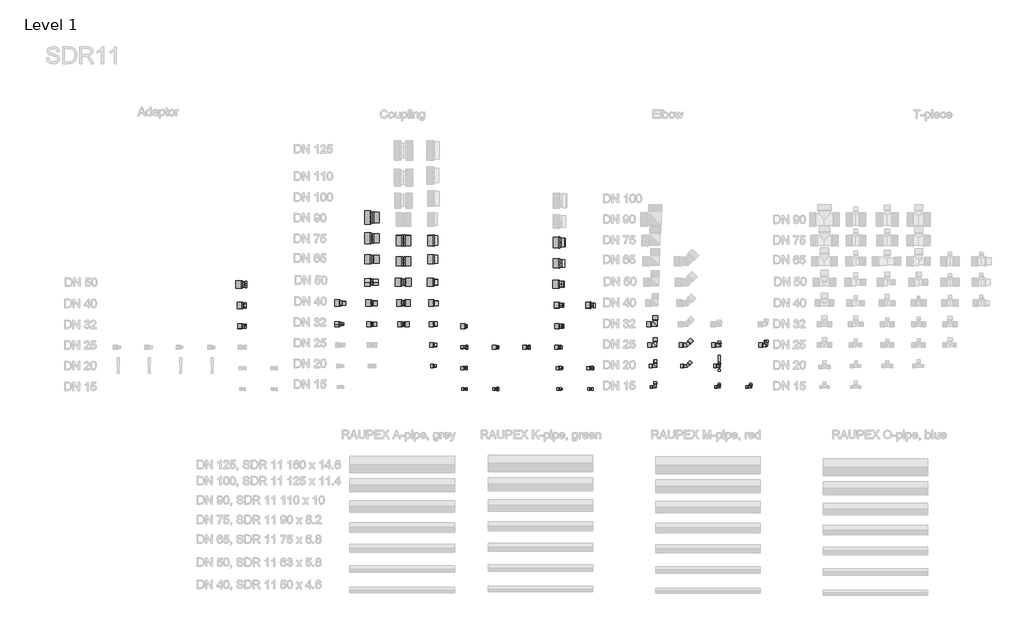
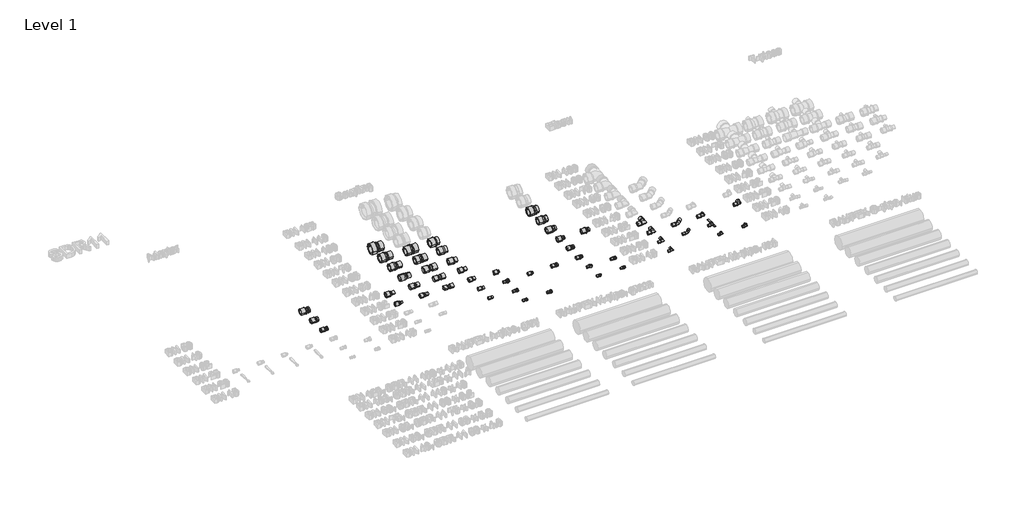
# One storey, part 3 of 16: 123 pipe fittings.
"""IFC4 building model written with IfcOpenShell, lengths in millimetres."""

from ifc_helpers import new_model, si_unit, origin, place, context, project, spatial, transform, mapped, element, save
from components import pipe_fitting_2c702f34, pipe_fitting_dab1daa7, pipe_fitting_0d2e2301, pipe_fitting_c9fbcce2, pipe_fitting_3aadb600, pipe_fitting_378b12e4, pipe_fitting_98be0705, pipe_fitting_7b38b3fe, pipe_fitting_768e8c92, pipe_fitting_5d65e2c7, pipe_fitting_7715747c, pipe_fitting_184ea8aa, pipe_fitting_c80349c2, pipe_fitting_1cbe8aa9, pipe_fitting_2a62b2ce, adapter_with_union_nut_sdr11_a_union_nut_lx_b692c261, adapter_with_union_nut_sdr11_a_union_nut_lx_88bdcbd4, adapter_with_union_nut_sdr11_a_union_nut_lx_b8b73a84, coupling_union_f10d7a8f, coupling_union_26f199f2, coupling_union_cbcc5ad7, coupling_union_0abae06c, coupling_union_130b633a, elbow_sdr11_lx_elbow_sdr_11_lx_623d303d, elbow_sdr11_lx_elbow_sdr_11_lx_9afd64a0, elbow_sdr11_lx_elbow_sdr_11_lx_04f5514c, elbow_sdr11_lx_elbow_sdr_11_lx_b8bc8752, elbow_sdr11_lx_elbow_sdr_11_lx_81e20379, elbow_sdr11_lx_elbow_sdr_11_lx_e0cd5045, elbow_adapter_sdr11_lx_elbow_adapter_sdr_11_lx_4b792a66, elbow_adapter_sdr11_lx_elbow_adapter_sdr_11_lx_cc2d060e, elbow_adapter_sdr11_lx_elbow_adapter_sdr_11_lx_d02e2b3c, elbow_adapter_sdr11_lx_elbow_adapter_sdr_11_lx_30344850, elbow_adapter_with_union_nut_sdr_11_lx_9001e0a9, female_adapter_internal_thread_sdr11_female_adapter_lx_e3558355, female_adapter_internal_thread_sdr11_female_adapter_lx_b72150e8, female_adapter_internal_thread_sdr11_female_adapter_lx_0baaf817, female_adapter_internal_thread_sdr11_female_adapter_lx_4a9fde89, female_adapter_internal_thread_sdr11_female_adapter_lx_76b21a85, female_adapter_internal_thread_sdr11_female_adapter_lx_59931cbf, female_adapter_internal_thread_sdr11_female_adapter_lx_052b0fb5, male_adapter_external_thread_sdr11_male_adapter_lx_4a5881c0, male_adapter_external_thread_sdr11_male_adapter_lx_f4faac24, male_adapter_external_thread_sdr11_male_adapter_lx_0d78ced2, male_adapter_external_thread_sdr11_male_adapter_lx_96740124, male_adapter_external_thread_sdr11_male_adapter_lx_289b96de, male_adapter_external_thread_sdr11_male_adapter_lx_11594ce0, male_adapter_external_thread_sdr11_male_adapter_lx_ea96c67b, male_adapter_external_thread_sdr11_male_adapter_lx_b940736f, male_adapter_external_thread_sdr11_male_adapter_lx_cf543375, male_adapter_external_thread_sdr11_male_adapter_rx_4136f3fd, male_adapter_external_thread_sdr11_male_adapter_rx_7419d65c, sleeve_lx_11_2e170aa1, sleeve_lx_11_3fcb8560, sleeve_lx_11_f19e3dbf, sleeve_lx_11_b9b419b6, sleeve_lx_11_e5eab1a7, sleeve_lx_11_ddfe2885, sleeve_rx_11_7b1edd19, sleeve_rx_11_d7843ee1, sleeve_rx_11_d7b6a074

model = new_model("IFC4")

# Units and contexts
model_context = context("Model", 3, world=origin())
ifc_project = project(units=[si_unit("LENGTHUNIT", "METRE", prefix="MILLI")], contexts=[model_context])

# Site, building, storey
site = spatial("IfcSite", under=ifc_project)
building = spatial("IfcBuilding", under=site)
storey = spatial("IfcBuildingStorey", under=building, Name="Level 1", Elevation=0.0)

# Pipe fittings
placement = place(None, origin())
pipe_fitting_shape = pipe_fitting_2c702f34(model_context)
element("IfcPipeFitting", 1, ObjectType="Coupling transistion : C RE SDR11 RX", at=placement, inside=storey, context=model_context, shape_type="MappedRepresentation", body=[
    mapped(pipe_fitting_shape, transform((11803.1112925, 1660.5489138, 0.0), x_axis=(1.0, 0.0, 0.0), y_axis=(0.0, 1.0, 0.0), z_axis=(0.0, 0.0, 1.0))),
])
pipe_fitting_2_shape = pipe_fitting_dab1daa7(model_context)
element("IfcPipeFitting", 2, ObjectType="Coupling transistion : C RE SDR11 LX", at=placement, inside=storey, context=model_context, shape_type="MappedRepresentation", body=[
    mapped(pipe_fitting_2_shape, transform((11503.1112925, 1040.5489138, 0.0), x_axis=(1.0, 0.0, 0.0), y_axis=(0.0, 0.0, -1.0), z_axis=(0.0, 1.0, 0.0))),
])
pipe_fitting_3_shape = pipe_fitting_0d2e2301(model_context)
element("IfcPipeFitting", 3, ObjectType="Coupling transistion : C RE SDR11 LX", at=placement, inside=storey, context=model_context, shape_type="MappedRepresentation", body=[
    mapped(pipe_fitting_3_shape, transform((11803.1112925, 1040.5489138, 0.0), x_axis=(1.0, 0.0, 0.0), y_axis=(0.0, 1.0, 0.0), z_axis=(0.0, 0.0, 1.0))),
])
pipe_fitting_4_shape = pipe_fitting_c9fbcce2(model_context)
element("IfcPipeFitting", 4, ObjectType="Coupling transistion : C RE SDR11 LX", at=placement, inside=storey, context=model_context, shape_type="MappedRepresentation", body=[
    mapped(pipe_fitting_4_shape, transform((11503.1112925, 1240.5489138, 0.0), x_axis=(1.0, 0.0, 0.0), y_axis=(0.0, 1.0, 0.0), z_axis=(0.0, 0.0, 1.0))),
])
pipe_fitting_5_shape = pipe_fitting_3aadb600(model_context)
element("IfcPipeFitting", 5, ObjectType="Coupling transistion : C RE SDR11 LX", at=placement, inside=storey, context=model_context, shape_type="MappedRepresentation", body=[
    mapped(pipe_fitting_5_shape, transform((11803.1112925, 1240.5489138, 0.0), x_axis=(1.0, 0.0, 0.0), y_axis=(0.0, 1.0, 0.0), z_axis=(0.0, 0.0, 1.0))),
])
pipe_fitting_6_shape = pipe_fitting_378b12e4(model_context)
element("IfcPipeFitting", 6, ObjectType="Coupling transistion : C RE SDR11 LX", at=placement, inside=storey, context=model_context, shape_type="MappedRepresentation", body=[
    mapped(pipe_fitting_6_shape, transform((11803.1112925, 1440.5489138, 0.0), x_axis=(1.0, 0.0, 0.0), y_axis=(0.0, 0.0, -1.0), z_axis=(0.0, 1.0, 0.0))),
])
pipe_fitting_7_shape = pipe_fitting_98be0705(model_context)
element("IfcPipeFitting", 7, ObjectType="Coupling transistion : C RE SDR11 RX", at=placement, inside=storey, context=model_context, shape_type="MappedRepresentation", body=[
    mapped(pipe_fitting_7_shape, transform((11803.1112925, 1860.5489138, 0.0), x_axis=(1.0, 0.0, 0.0), y_axis=(0.0, 1.0, 0.0), z_axis=(0.0, 0.0, 1.0))),
])
pipe_fitting_8_shape = pipe_fitting_7b38b3fe(model_context)
element("IfcPipeFitting", 8, ObjectType="Coupling transistion : C RE SDR11 RX", at=placement, inside=storey, context=model_context, shape_type="MappedRepresentation", body=[
    mapped(pipe_fitting_8_shape, transform((11803.1112925, 2060.5489138, 0.0), x_axis=(1.0, 0.0, 0.0), y_axis=(0.0, 1.0, 0.0), z_axis=(0.0, 0.0, 1.0))),
])
pipe_fitting_9_shape = pipe_fitting_768e8c92(model_context)
element("IfcPipeFitting", 9, ObjectType="Adapter with welding end : A welding LX", at=placement, inside=storey, context=model_context, shape_type="MappedRepresentation", body=[
    mapped(pipe_fitting_9_shape, transform((12403.1112925, 1440.5489138, 0.0), x_axis=(1.0, 0.0, 0.0), y_axis=(0.0, 1.0, 0.0), z_axis=(0.0, 0.0, 1.0))),
])
pipe_fitting_10_shape = pipe_fitting_5d65e2c7(model_context)
element("IfcPipeFitting", 10, ObjectType="Adapter with welding end : A welding LX", at=placement, inside=storey, context=model_context, shape_type="MappedRepresentation", body=[
    mapped(pipe_fitting_10_shape, transform((12403.1112925, 640.5489138, 0.0), x_axis=(1.0, 0.0, 0.0), y_axis=(0.0, 1.0, 0.0), z_axis=(0.0, 0.0, 1.0))),
])
pipe_fitting_11_shape = pipe_fitting_7715747c(model_context)
element("IfcPipeFitting", 11, ObjectType="Adapter with welding end : A welding LX", at=placement, inside=storey, context=model_context, shape_type="MappedRepresentation", body=[
    mapped(pipe_fitting_11_shape, transform((12403.1112925, 1240.5489138, 0.0), x_axis=(1.0, 0.0, 0.0), y_axis=(0.0, 1.0, 0.0), z_axis=(0.0, 0.0, 1.0))),
])
pipe_fitting_12_shape = pipe_fitting_184ea8aa(model_context)
element("IfcPipeFitting", 12, ObjectType="Adapter with welding end : A welding LX", at=placement, inside=storey, context=model_context, shape_type="MappedRepresentation", body=[
    mapped(pipe_fitting_12_shape, transform((12403.1112925, 1040.5489138, 0.0), x_axis=(1.0, 0.0, 0.0), y_axis=(0.0, 1.0, 0.0), z_axis=(0.0, 0.0, 1.0))),
])
pipe_fitting_13_shape = pipe_fitting_c80349c2(model_context)
element("IfcPipeFitting", 13, ObjectType="Adapter with welding end : A welding LX", at=placement, inside=storey, context=model_context, shape_type="MappedRepresentation", body=[
    mapped(pipe_fitting_13_shape, transform((12403.1112925, 840.5489138, 0.0), x_axis=(1.0, 0.0, 0.0), y_axis=(0.0, 1.0, 0.0), z_axis=(0.0, 0.0, 1.0))),
])
pipe_fitting_14_shape = pipe_fitting_1cbe8aa9(model_context)
element("IfcPipeFitting", 14, ObjectType="Adapter with welding end : A welding RX", at=placement, inside=storey, context=model_context, shape_type="MappedRepresentation", body=[
    mapped(pipe_fitting_14_shape, transform((12403.1112925, 1660.5489138, 0.0), x_axis=(1.0, 0.0, 0.0), y_axis=(0.0, 1.0, 0.0), z_axis=(0.0, 0.0, 1.0))),
])
pipe_fitting_15_shape = pipe_fitting_2a62b2ce(model_context)
element("IfcPipeFitting", 15, ObjectType="Adapter with welding end : A welding RX", at=placement, inside=storey, context=model_context, shape_type="MappedRepresentation", body=[
    mapped(pipe_fitting_15_shape, transform((12403.1112925, 1840.5489138, 0.0), x_axis=(1.0, 0.0, 0.0), y_axis=(0.0, 1.0, 0.0), z_axis=(0.0, 0.0, 1.0))),
])
adapter_with_union_nut_sdr11_a_union_nut_lx_shape = adapter_with_union_nut_sdr11_a_union_nut_lx_b692c261(model_context)
element("IfcPipeFitting", 16, ObjectType="Adapter with union nut SDR11 : A union nut LX", at=placement, inside=storey, context=model_context, shape_type="MappedRepresentation", body=[
    mapped(adapter_with_union_nut_sdr11_a_union_nut_lx_shape, transform((10576.3241815, 1019.0534305, 0.0), x_axis=(1.0, 0.0, 0.0), y_axis=(0.0, 1.0, 0.0), z_axis=(0.0, 0.0, 1.0))),
])
adapter_with_union_nut_sdr11_a_union_nut_lx_2_shape = adapter_with_union_nut_sdr11_a_union_nut_lx_88bdcbd4(model_context)
element("IfcPipeFitting", 17, ObjectType="Adapter with union nut SDR11 : A union nut LX", at=placement, inside=storey, context=model_context, shape_type="MappedRepresentation", body=[
    mapped(adapter_with_union_nut_sdr11_a_union_nut_lx_2_shape, transform((10576.3241815, 1219.0534305, 0.0), x_axis=(1.0, 0.0, 0.0), y_axis=(0.0, 1.0, 0.0), z_axis=(0.0, 0.0, 1.0))),
])
adapter_with_union_nut_sdr11_a_union_nut_lx_3_shape = adapter_with_union_nut_sdr11_a_union_nut_lx_b8b73a84(model_context)
element("IfcPipeFitting", 18, ObjectType="Adapter with union nut SDR11 : A union nut LX", at=placement, inside=storey, context=model_context, shape_type="MappedRepresentation", body=[
    mapped(adapter_with_union_nut_sdr11_a_union_nut_lx_3_shape, transform((10576.3241815, 1419.0534305, 0.0), x_axis=(1.0, 0.0, 0.0), y_axis=(0.0, 1.0, 0.0), z_axis=(0.0, 0.0, 1.0))),
])
coupling_union_shape = coupling_union_f10d7a8f(model_context)
element("IfcPipeFitting", 19, ObjectType="Coupling union : C EQ SDR11 LX", at=placement, inside=storey, context=model_context, shape_type="MappedRepresentation", body=[
    mapped(coupling_union_shape, transform((12103.1112925, 1440.5489138, 0.0), x_axis=(1.0, 0.0, 0.0), y_axis=(0.0, 1.0, 0.0), z_axis=(0.0, 0.0, 1.0))),
])
coupling_union_2_shape = coupling_union_26f199f2(model_context)
element("IfcPipeFitting", 20, ObjectType="Coupling union : C EQ SDR11 LX", at=placement, inside=storey, context=model_context, shape_type="MappedRepresentation", body=[
    mapped(coupling_union_2_shape, transform((12103.1112925, 1040.5489138, 0.0), x_axis=(1.0, 0.0, 0.0), y_axis=(0.0, 1.0, 0.0), z_axis=(0.0, 0.0, 1.0))),
])
coupling_union_3_shape = coupling_union_cbcc5ad7(model_context)
element("IfcPipeFitting", 21, ObjectType="Coupling union : C EQ SDR11 LX", at=placement, inside=storey, context=model_context, shape_type="MappedRepresentation", body=[
    mapped(coupling_union_3_shape, transform((12103.1112925, 1240.5489138, 0.0), x_axis=(1.0, 0.0, 0.0), y_axis=(0.0, 1.0, 0.0), z_axis=(0.0, 0.0, 1.0))),
])
coupling_union_4_shape = coupling_union_0abae06c(model_context)
element("IfcPipeFitting", 22, ObjectType="Coupling union : C EQ SDR11 RX", at=placement, inside=storey, context=model_context, shape_type="MappedRepresentation", body=[
    mapped(coupling_union_4_shape, transform((12103.1112925, 1640.5489138, 0.0), x_axis=(1.0, 0.0, 0.0), y_axis=(0.0, 1.0, 0.0), z_axis=(0.0, 0.0, 1.0))),
])
coupling_union_5_shape = coupling_union_130b633a(model_context)
element("IfcPipeFitting", 23, ObjectType="Coupling union : C EQ SDR11 RX", at=placement, inside=storey, context=model_context, shape_type="MappedRepresentation", body=[
    mapped(coupling_union_5_shape, transform((12103.1112925, 1840.5489138, 0.0), x_axis=(1.0, 0.0, 0.0), y_axis=(0.0, 1.0, 0.0), z_axis=(0.0, 0.0, 1.0))),
])
elbow_sdr11_lx_elbow_sdr_11_lx_shape = elbow_sdr11_lx_elbow_sdr_11_lx_623d303d(model_context)
element("IfcPipeFitting", 24, ObjectType="Elbow SDR11 LX : Elbow SDR 11 LX", at=placement, inside=storey, context=model_context, shape_type="MappedRepresentation", body=[
    mapped(elbow_sdr11_lx_elbow_sdr_11_lx_shape, transform((14509.6158086, 640.5489138, 0.0), x_axis=(1.0, 0.0, 0.0), y_axis=(0.0, 1.0, 0.0), z_axis=(0.0, 0.0, 1.0))),
])
elbow_sdr11_lx_elbow_sdr_11_lx_2_shape = elbow_sdr11_lx_elbow_sdr_11_lx_9afd64a0(model_context)
element("IfcPipeFitting", 25, ObjectType="Elbow SDR11 LX : Elbow SDR 11 LX", at=placement, inside=storey, context=model_context, shape_type="MappedRepresentation", body=[
    mapped(elbow_sdr11_lx_elbow_sdr_11_lx_2_shape, transform((14509.6158086, 440.5489138, 0.0), x_axis=(1.0, 0.0, 0.0), y_axis=(0.0, 1.0, 0.0), z_axis=(0.0, 0.0, 1.0))),
])
elbow_sdr11_lx_elbow_sdr_11_lx_3_shape = elbow_sdr11_lx_elbow_sdr_11_lx_04f5514c(model_context)
element("IfcPipeFitting", 26, ObjectType="Elbow SDR11 LX : Elbow SDR 11 LX", at=placement, inside=storey, context=model_context, shape_type="MappedRepresentation", body=[
    mapped(elbow_sdr11_lx_elbow_sdr_11_lx_3_shape, transform((14509.6158086, 840.5489138, 0.0), x_axis=(1.0, 0.0, 0.0), y_axis=(0.0, 1.0, 0.0), z_axis=(0.0, 0.0, 1.0))),
])
elbow_sdr11_lx_elbow_sdr_11_lx_4_shape = elbow_sdr11_lx_elbow_sdr_11_lx_b8bc8752(model_context)
element("IfcPipeFitting", 27, ObjectType="Elbow SDR11 LX : Elbow SDR 11 LX", at=placement, inside=storey, context=model_context, shape_type="MappedRepresentation", body=[
    mapped(elbow_sdr11_lx_elbow_sdr_11_lx_4_shape, transform((14509.6158086, 1040.5489138, 0.0), x_axis=(1.0, 0.0, 0.0), y_axis=(0.0, 1.0, 0.0), z_axis=(0.0, 0.0, 1.0))),
])
elbow_sdr11_lx_elbow_sdr_11_lx_5_shape = elbow_sdr11_lx_elbow_sdr_11_lx_81e20379(model_context)
element("IfcPipeFitting", 28, ObjectType="Elbow SDR11 LX : Elbow SDR 11 LX", at=placement, inside=storey, context=model_context, shape_type="MappedRepresentation", body=[
    mapped(elbow_sdr11_lx_elbow_sdr_11_lx_5_shape, transform((14809.6158086, 640.5489138, 0.0), x_axis=(1.0, 0.0, 0.0), y_axis=(0.0, 1.0, 0.0), z_axis=(0.0, 0.0, 1.0))),
])
elbow_sdr11_lx_elbow_sdr_11_lx_6_shape = elbow_sdr11_lx_elbow_sdr_11_lx_e0cd5045(model_context)
element("IfcPipeFitting", 29, ObjectType="Elbow SDR11 LX : Elbow SDR 11 LX", at=placement, inside=storey, context=model_context, shape_type="MappedRepresentation", body=[
    mapped(elbow_sdr11_lx_elbow_sdr_11_lx_6_shape, transform((14809.6158086, 840.5489138, 0.0), x_axis=(1.0, 0.0, 0.0), y_axis=(0.0, 1.0, 0.0), z_axis=(0.0, 0.0, 1.0))),
])
elbow_adapter_sdr11_lx_elbow_adapter_sdr_11_lx_shape = elbow_adapter_sdr11_lx_elbow_adapter_sdr_11_lx_4b792a66(model_context)
element("IfcPipeFitting", 30, ObjectType="Elbow adapter SDR11 LX : Elbow adapter SDR 11 LX", at=placement, inside=storey, context=model_context, shape_type="MappedRepresentation", body=[
    mapped(elbow_adapter_sdr11_lx_elbow_adapter_sdr_11_lx_shape, transform((15121.1751687, 440.5489138, 0.0), x_axis=(1.0, 0.0, 0.0), y_axis=(0.0, 1.0, 0.0), z_axis=(0.0, 0.0, 1.0))),
])
elbow_adapter_sdr11_lx_elbow_adapter_sdr_11_lx_2_shape = elbow_adapter_sdr11_lx_elbow_adapter_sdr_11_lx_cc2d060e(model_context)
element("IfcPipeFitting", 31, ObjectType="Elbow adapter SDR11 LX : Elbow adapter SDR 11 LX", at=placement, inside=storey, context=model_context, shape_type="MappedRepresentation", body=[
    mapped(elbow_adapter_sdr11_lx_elbow_adapter_sdr_11_lx_2_shape, transform((15421.1751687, 440.5489138, 0.0), x_axis=(1.0, 0.0, 0.0), y_axis=(0.0, 1.0, 0.0), z_axis=(0.0, 0.0, 1.0))),
])
elbow_adapter_sdr11_lx_elbow_adapter_sdr_11_lx_3_shape = elbow_adapter_sdr11_lx_elbow_adapter_sdr_11_lx_d02e2b3c(model_context)
element("IfcPipeFitting", 32, ObjectType="Elbow adapter SDR11 LX : Elbow adapter SDR 11 LX", at=placement, inside=storey, context=model_context, shape_type="MappedRepresentation", body=[
    mapped(elbow_adapter_sdr11_lx_elbow_adapter_sdr_11_lx_3_shape, transform((15121.1751687, 640.5489138, 0.0), x_axis=(1.0, 0.0, 0.0), y_axis=(0.0, 1.0, 0.0), z_axis=(0.0, 0.0, 1.0))),
])
elbow_adapter_sdr11_lx_elbow_adapter_sdr_11_lx_4_shape = elbow_adapter_sdr11_lx_elbow_adapter_sdr_11_lx_30344850(model_context)
element("IfcPipeFitting", 33, ObjectType="Elbow adapter SDR11 LX : Elbow adapter SDR 11 LX", at=placement, inside=storey, context=model_context, shape_type="MappedRepresentation", body=[
    mapped(elbow_adapter_sdr11_lx_elbow_adapter_sdr_11_lx_4_shape, transform((15121.1751687, 840.5489138, 0.0), x_axis=(1.0, 0.0, 0.0), y_axis=(0.0, 1.0, 0.0), z_axis=(0.0, 0.0, 1.0))),
])
elbow_adapter_with_union_nut_sdr_11_lx_shape = elbow_adapter_with_union_nut_sdr_11_lx_9001e0a9(model_context)
element("IfcPipeFitting", 34, ObjectType="Elbow adapter with union nut SDR11 LX  : Elbow adapter with union nut SDR 11 LX", at=placement, inside=storey, context=model_context, shape_type="MappedRepresentation", body=[
    mapped(elbow_adapter_with_union_nut_sdr_11_lx_shape, transform((15569.0164475, 840.5489138, 0.0), x_axis=(1.0, 0.0, 0.0), y_axis=(0.0, 1.0, 0.0), z_axis=(0.0, 0.0, 1.0))),
])
female_adapter_internal_thread_sdr11_female_adapter_lx_shape = female_adapter_internal_thread_sdr11_female_adapter_lx_e3558355(model_context)
element("IfcPipeFitting", 35, ObjectType="Female adapter internal thread SDR11 : Female adapter LX", at=placement, inside=storey, context=model_context, shape_type="MappedRepresentation", body=[
    mapped(female_adapter_internal_thread_sdr11_female_adapter_lx_shape, transform((12696.8014725, 420.5489138, 0.0), x_axis=(1.0, 0.0, 0.0), y_axis=(0.0, 1.0, 0.0), z_axis=(0.0, 0.0, 1.0))),
])
female_adapter_internal_thread_sdr11_female_adapter_lx_2_shape = female_adapter_internal_thread_sdr11_female_adapter_lx_b72150e8(model_context)
element("IfcPipeFitting", 36, ObjectType="Female adapter internal thread SDR11 : Female adapter LX", at=placement, inside=storey, context=model_context, shape_type="MappedRepresentation", body=[
    mapped(female_adapter_internal_thread_sdr11_female_adapter_lx_2_shape, transform((12996.8014725, 420.5489138, 0.0), x_axis=(1.0, 0.0, 0.0), y_axis=(0.0, 1.0, 0.0), z_axis=(0.0, 0.0, 1.0))),
])
female_adapter_internal_thread_sdr11_female_adapter_lx_3_shape = female_adapter_internal_thread_sdr11_female_adapter_lx_0baaf817(model_context)
element("IfcPipeFitting", 37, ObjectType="Female adapter internal thread SDR11 : Female adapter LX", at=placement, inside=storey, context=model_context, shape_type="MappedRepresentation", body=[
    mapped(female_adapter_internal_thread_sdr11_female_adapter_lx_3_shape, transform((12696.8014725, 620.5489138, 0.0), x_axis=(1.0, 0.0, 0.0), y_axis=(0.0, 1.0, 0.0), z_axis=(0.0, 0.0, 1.0))),
])
female_adapter_internal_thread_sdr11_female_adapter_lx_4_shape = female_adapter_internal_thread_sdr11_female_adapter_lx_4a9fde89(model_context)
element("IfcPipeFitting", 38, ObjectType="Female adapter internal thread SDR11 : Female adapter LX", at=placement, inside=storey, context=model_context, shape_type="MappedRepresentation", body=[
    mapped(female_adapter_internal_thread_sdr11_female_adapter_lx_4_shape, transform((12696.8014725, 820.5489138, 0.0), x_axis=(1.0, 0.0, 0.0), y_axis=(0.0, 1.0, 0.0), z_axis=(0.0, 0.0, 1.0))),
])
female_adapter_internal_thread_sdr11_female_adapter_lx_5_shape = female_adapter_internal_thread_sdr11_female_adapter_lx_76b21a85(model_context)
element("IfcPipeFitting", 39, ObjectType="Female adapter internal thread SDR11 : Female adapter LX", at=placement, inside=storey, context=model_context, shape_type="MappedRepresentation", body=[
    mapped(female_adapter_internal_thread_sdr11_female_adapter_lx_5_shape, transform((12996.8014725, 820.5489138, 0.0), x_axis=(1.0, 0.0, 0.0), y_axis=(0.0, 1.0, 0.0), z_axis=(0.0, 0.0, 1.0))),
])
female_adapter_internal_thread_sdr11_female_adapter_lx_6_shape = female_adapter_internal_thread_sdr11_female_adapter_lx_59931cbf(model_context)
element("IfcPipeFitting", 40, ObjectType="Female adapter internal thread SDR11 : Female adapter LX", at=placement, inside=storey, context=model_context, shape_type="MappedRepresentation", body=[
    mapped(female_adapter_internal_thread_sdr11_female_adapter_lx_6_shape, transform((13296.8014725, 820.5489138, 0.0), x_axis=(1.0, 0.0, 0.0), y_axis=(0.0, 1.0, 0.0), z_axis=(0.0, 0.0, 1.0))),
])
female_adapter_internal_thread_sdr11_female_adapter_lx_7_shape = female_adapter_internal_thread_sdr11_female_adapter_lx_052b0fb5(model_context)
element("IfcPipeFitting", 41, ObjectType="Female adapter internal thread SDR11 : Female adapter LX", at=placement, inside=storey, context=model_context, shape_type="MappedRepresentation", body=[
    mapped(female_adapter_internal_thread_sdr11_female_adapter_lx_7_shape, transform((12696.8014725, 1020.5489138, 0.0), x_axis=(1.0, 0.0, 0.0), y_axis=(0.0, 1.0, 0.0), z_axis=(0.0, 0.0, 1.0))),
])
male_adapter_external_thread_sdr11_male_adapter_lx_shape = male_adapter_external_thread_sdr11_male_adapter_lx_4a5881c0(model_context)
element("IfcPipeFitting", 42, ObjectType="Male adapter external thread SDR11 : Male adapter LX", at=placement, inside=storey, context=model_context, shape_type="MappedRepresentation", body=[
    mapped(male_adapter_external_thread_sdr11_male_adapter_lx_shape, transform((13596.8014725, 420.5489138, 0.0), x_axis=(1.0, 0.0, 0.0), y_axis=(0.0, 1.0, 0.0), z_axis=(0.0, 0.0, 1.0))),
])
male_adapter_external_thread_sdr11_male_adapter_lx_2_shape = male_adapter_external_thread_sdr11_male_adapter_lx_f4faac24(model_context)
element("IfcPipeFitting", 43, ObjectType="Male adapter external thread SDR11 : Male adapter LX", at=placement, inside=storey, context=model_context, shape_type="MappedRepresentation", body=[
    mapped(male_adapter_external_thread_sdr11_male_adapter_lx_2_shape, transform((13896.8014725, 420.5489138, 0.0), x_axis=(1.0, 0.0, 0.0), y_axis=(0.0, 1.0, 0.0), z_axis=(0.0, 0.0, 1.0))),
])
male_adapter_external_thread_sdr11_male_adapter_lx_3_shape = male_adapter_external_thread_sdr11_male_adapter_lx_0d78ced2(model_context)
element("IfcPipeFitting", 44, ObjectType="Male adapter external thread SDR11 : Male adapter LX", at=placement, inside=storey, context=model_context, shape_type="MappedRepresentation", body=[
    mapped(male_adapter_external_thread_sdr11_male_adapter_lx_3_shape, transform((13596.8014725, 620.5489138, 0.0), x_axis=(1.0, 0.0, 0.0), y_axis=(0.0, 1.0, 0.0), z_axis=(0.0, 0.0, 1.0))),
])
male_adapter_external_thread_sdr11_male_adapter_lx_4_shape = male_adapter_external_thread_sdr11_male_adapter_lx_96740124(model_context)
element("IfcPipeFitting", 45, ObjectType="Male adapter external thread SDR11 : Male adapter LX", at=placement, inside=storey, context=model_context, shape_type="MappedRepresentation", body=[
    mapped(male_adapter_external_thread_sdr11_male_adapter_lx_4_shape, transform((13896.8014725, 620.5489138, 0.0), x_axis=(1.0, 0.0, 0.0), y_axis=(0.0, 1.0, 0.0), z_axis=(0.0, 0.0, 1.0))),
])
male_adapter_external_thread_sdr11_male_adapter_lx_5_shape = male_adapter_external_thread_sdr11_male_adapter_lx_289b96de(model_context)
element("IfcPipeFitting", 46, ObjectType="Male adapter external thread SDR11 : Male adapter LX", at=placement, inside=storey, context=model_context, shape_type="MappedRepresentation", body=[
    mapped(male_adapter_external_thread_sdr11_male_adapter_lx_5_shape, transform((13596.8014725, 820.5489138, 0.0), x_axis=(1.0, 0.0, 0.0), y_axis=(0.0, 1.0, 0.0), z_axis=(0.0, 0.0, 1.0))),
])
male_adapter_external_thread_sdr11_male_adapter_lx_6_shape = male_adapter_external_thread_sdr11_male_adapter_lx_11594ce0(model_context)
element("IfcPipeFitting", 47, ObjectType="Male adapter external thread SDR11 : Male adapter LX", at=placement, inside=storey, context=model_context, shape_type="MappedRepresentation", body=[
    mapped(male_adapter_external_thread_sdr11_male_adapter_lx_6_shape, transform((13596.8014725, 1020.5489138, 0.0), x_axis=(1.0, 0.0, 0.0), y_axis=(0.0, 1.0, 0.0), z_axis=(0.0, 0.0, 1.0))),
])
male_adapter_external_thread_sdr11_male_adapter_lx_7_shape = male_adapter_external_thread_sdr11_male_adapter_lx_ea96c67b(model_context)
element("IfcPipeFitting", 48, ObjectType="Male adapter external thread SDR11 : Male adapter LX", at=placement, inside=storey, context=model_context, shape_type="MappedRepresentation", body=[
    mapped(male_adapter_external_thread_sdr11_male_adapter_lx_7_shape, transform((13596.8014725, 1220.5489138, 0.0), x_axis=(1.0, 0.0, 0.0), y_axis=(0.0, 1.0, 0.0), z_axis=(0.0, 0.0, 1.0))),
])
male_adapter_external_thread_sdr11_male_adapter_lx_8_shape = male_adapter_external_thread_sdr11_male_adapter_lx_b940736f(model_context)
element("IfcPipeFitting", 49, ObjectType="Male adapter external thread SDR11 : Male adapter LX", at=placement, inside=storey, context=model_context, shape_type="MappedRepresentation", body=[
    mapped(male_adapter_external_thread_sdr11_male_adapter_lx_8_shape, transform((13896.8014725, 1220.5489138, 0.0), x_axis=(1.0, 0.0, 0.0), y_axis=(0.0, 1.0, 0.0), z_axis=(0.0, 0.0, 1.0))),
])
male_adapter_external_thread_sdr11_male_adapter_lx_9_shape = male_adapter_external_thread_sdr11_male_adapter_lx_cf543375(model_context)
element("IfcPipeFitting", 50, ObjectType="Male adapter external thread SDR11 : Male adapter LX", at=placement, inside=storey, context=model_context, shape_type="MappedRepresentation", body=[
    mapped(male_adapter_external_thread_sdr11_male_adapter_lx_9_shape, transform((13596.8014725, 1420.5489138, 0.0), x_axis=(1.0, 0.0, 0.0), y_axis=(0.0, 1.0, 0.0), z_axis=(0.0, 0.0, 1.0))),
])
male_adapter_external_thread_sdr11_male_adapter_rx_shape = male_adapter_external_thread_sdr11_male_adapter_rx_4136f3fd(model_context)
element("IfcPipeFitting", 51, ObjectType="Male adapter external thread SDR11 : Male adapter RX", at=placement, inside=storey, context=model_context, shape_type="MappedRepresentation", body=[
    mapped(male_adapter_external_thread_sdr11_male_adapter_rx_shape, transform((13596.8014725, 1620.5489138, 0.0), x_axis=(1.0, 0.0, 0.0), y_axis=(0.0, 1.0, 0.0), z_axis=(0.0, 0.0, 1.0))),
])
male_adapter_external_thread_sdr11_male_adapter_rx_2_shape = male_adapter_external_thread_sdr11_male_adapter_rx_7419d65c(model_context)
element("IfcPipeFitting", 52, ObjectType="Male adapter external thread SDR11 : Male adapter RX", at=placement, inside=storey, context=model_context, shape_type="MappedRepresentation", body=[
    mapped(male_adapter_external_thread_sdr11_male_adapter_rx_2_shape, transform((13596.8014725, 1820.5489138, 0.0), x_axis=(1.0, 0.0, 0.0), y_axis=(0.0, 1.0, 0.0), z_axis=(0.0, 0.0, 1.0))),
])
sleeve_lx_11_shape = sleeve_lx_11_2e170aa1(model_context)
element("IfcPipeFitting", 53, ObjectType="Sleeve : LX 11", at=placement, inside=storey, context=model_context, shape_type="MappedRepresentation", body=[
    mapped(sleeve_lx_11_shape, transform((15048.1751687, 840.5489138, 0.0), x_axis=(1.0, 0.0, 0.0), y_axis=(0.0, 1.0, 0.0), z_axis=(0.0, 0.0, 1.0))),
])
element("IfcPipeFitting", 54, ObjectType="Sleeve : LX 11", at=placement, inside=storey, context=model_context, shape_type="MappedRepresentation", body=[
    mapped(sleeve_lx_11_shape, transform((15497.5164475, 840.5489138, 0.0), x_axis=(1.0, 0.0, 0.0), y_axis=(0.0, 1.0, 0.0), z_axis=(0.0, 0.0, 1.0))),
])
element("IfcPipeFitting", 55, ObjectType="Sleeve : LX 11", at=placement, inside=storey, context=model_context, shape_type="MappedRepresentation", body=[
    mapped(sleeve_lx_11_shape, transform((14438.6158086, 840.5489138, 0.0), x_axis=(1.0, 0.0, 0.0), y_axis=(0.0, 1.0, 0.0), z_axis=(0.0, 0.0, 1.0))),
])
element("IfcPipeFitting", 56, ObjectType="Sleeve : LX 11", at=placement, inside=storey, context=model_context, shape_type="MappedRepresentation", body=[
    mapped(sleeve_lx_11_shape, transform((14509.6158086, 911.5489138, 0.0), x_axis=(0.0, -1.0, 0.0), y_axis=(1.0, 0.0, 0.0), z_axis=(0.0, 0.0, 1.0))),
])
element("IfcPipeFitting", 57, ObjectType="Sleeve : LX 11", at=placement, inside=storey, context=model_context, shape_type="MappedRepresentation", body=[
    mapped(sleeve_lx_11_shape, transform((12952.9014725, 820.5489138, 0.0), x_axis=(1.0, 0.0, 0.0), y_axis=(0.0, 1.0, 0.0), z_axis=(0.0, 0.0, 1.0))),
])
element("IfcPipeFitting", 58, ObjectType="Sleeve : LX 11", at=placement, inside=storey, context=model_context, shape_type="MappedRepresentation", body=[
    mapped(sleeve_lx_11_shape, transform((13242.5014725, 820.5489138, 0.0), x_axis=(1.0, 0.0, 0.0), y_axis=(0.0, 1.0, 0.0), z_axis=(0.0, 0.0, 1.0))),
])
element("IfcPipeFitting", 59, ObjectType="Sleeve : LX 11", at=placement, inside=storey, context=model_context, shape_type="MappedRepresentation", body=[
    mapped(sleeve_lx_11_shape, transform((13546.8014725, 820.5489138, 0.0), x_axis=(1.0, 0.0, 0.0), y_axis=(0.0, 1.0, 0.0), z_axis=(0.0, 0.0, 1.0))),
])
element("IfcPipeFitting", 60, ObjectType="Sleeve : LX 11", at=placement, inside=storey, context=model_context, shape_type="MappedRepresentation", body=[
    mapped(sleeve_lx_11_shape, transform((14738.6158086, 840.5489138, 0.0), x_axis=(1.0, 0.0, 0.0), y_axis=(0.0, 1.0, 0.0), z_axis=(0.0, 0.0, 1.0))),
])
element("IfcPipeFitting", 61, ObjectType="Sleeve : LX 11", at=placement, inside=storey, context=model_context, shape_type="MappedRepresentation", body=[
    mapped(sleeve_lx_11_shape, transform((14859.8203901, 890.7534953, 0.0), x_axis=(-0.707106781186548, -0.707106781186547, 0.0), y_axis=(0.707106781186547, -0.707106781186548, 0.0), z_axis=(0.0, 0.0, 1.0))),
])
element("IfcPipeFitting", 62, ObjectType="Sleeve : LX 11", at=placement, inside=storey, context=model_context, shape_type="MappedRepresentation", body=[
    mapped(sleeve_lx_11_shape, transform((11815.1112925, 1040.5489138, 0.0), x_axis=(1.0, 0.0, 0.0), y_axis=(0.0, 1.0, 0.0), z_axis=(0.0, 0.0, 1.0))),
])
element("IfcPipeFitting", 63, ObjectType="Sleeve : LX 11", at=placement, inside=storey, context=model_context, shape_type="MappedRepresentation", body=[
    mapped(sleeve_lx_11_shape, transform((11516.6112925, 1240.5489138, 0.0), x_axis=(1.0, 0.0, 0.0), y_axis=(0.0, 1.0, 0.0), z_axis=(0.0, 0.0, 1.0))),
])
element("IfcPipeFitting", 64, ObjectType="Sleeve : LX 11", at=placement, inside=storey, context=model_context, shape_type="MappedRepresentation", body=[
    mapped(sleeve_lx_11_shape, transform((12354.9112925, 840.5489138, 0.0), x_axis=(1.0, 0.0, 0.0), y_axis=(0.0, 1.0, 0.0), z_axis=(0.0, 0.0, 1.0))),
])
sleeve_lx_11_2_shape = sleeve_lx_11_3fcb8560(model_context)
element("IfcPipeFitting", 65, ObjectType="Sleeve : LX 11", at=placement, inside=storey, context=model_context, shape_type="MappedRepresentation", body=[
    mapped(sleeve_lx_11_2_shape, transform((15076.1751687, 440.5489138, 0.0), x_axis=(1.0, 0.0, 0.0), y_axis=(0.0, 1.0, 0.0), z_axis=(0.0, 0.0, 1.0))),
])
element("IfcPipeFitting", 66, ObjectType="Sleeve : LX 11", at=placement, inside=storey, context=model_context, shape_type="MappedRepresentation", body=[
    mapped(sleeve_lx_11_2_shape, transform((15373.1751687, 440.5489138, 0.0), x_axis=(1.0, 0.0, 0.0), y_axis=(0.0, 1.0, 0.0), z_axis=(0.0, 0.0, 1.0))),
])
element("IfcPipeFitting", 67, ObjectType="Sleeve : LX 11", at=placement, inside=storey, context=model_context, shape_type="MappedRepresentation", body=[
    mapped(sleeve_lx_11_2_shape, transform((14461.1158086, 440.5489138, 0.0), x_axis=(1.0, 0.0, 0.0), y_axis=(0.0, 1.0, 0.0), z_axis=(0.0, 0.0, 1.0))),
])
element("IfcPipeFitting", 68, ObjectType="Sleeve : LX 11", at=placement, inside=storey, context=model_context, shape_type="MappedRepresentation", body=[
    mapped(sleeve_lx_11_2_shape, transform((14509.6158086, 489.0489138, 0.0), x_axis=(0.0, -1.0, 0.0), y_axis=(1.0, 0.0, 0.0), z_axis=(0.0, 0.0, 1.0))),
])
element("IfcPipeFitting", 69, ObjectType="Sleeve : LX 11", at=placement, inside=storey, context=model_context, shape_type="MappedRepresentation", body=[
    mapped(sleeve_lx_11_2_shape, transform((12660.3014725, 420.5489138, 0.0), x_axis=(1.0, 0.0, 0.0), y_axis=(0.0, 1.0, 0.0), z_axis=(0.0, 0.0, 1.0))),
])
element("IfcPipeFitting", 70, ObjectType="Sleeve : LX 11", at=placement, inside=storey, context=model_context, shape_type="MappedRepresentation", body=[
    mapped(sleeve_lx_11_2_shape, transform((12958.2014725, 420.5489138, 0.0), x_axis=(1.0, 0.0, 0.0), y_axis=(0.0, 1.0, 0.0), z_axis=(0.0, 0.0, 1.0))),
])
element("IfcPipeFitting", 71, ObjectType="Sleeve : LX 11", at=placement, inside=storey, context=model_context, shape_type="MappedRepresentation", body=[
    mapped(sleeve_lx_11_2_shape, transform((13568.9014725, 420.5489138, 0.0), x_axis=(1.0, 0.0, 0.0), y_axis=(0.0, 1.0, 0.0), z_axis=(0.0, 0.0, 1.0))),
])
element("IfcPipeFitting", 72, ObjectType="Sleeve : LX 11", at=placement, inside=storey, context=model_context, shape_type="MappedRepresentation", body=[
    mapped(sleeve_lx_11_2_shape, transform((13862.8014725, 420.5489138, 0.0), x_axis=(1.0, 0.0, 0.0), y_axis=(0.0, 1.0, 0.0), z_axis=(0.0, 0.0, 1.0))),
])
element("IfcPipeFitting", 73, ObjectType="Sleeve : LX 11", at=placement, inside=storey, context=model_context, shape_type="MappedRepresentation", body=[
    mapped(sleeve_lx_11_2_shape, transform((11514.1112925, 1040.5489138, 0.0), x_axis=(1.0, 0.0, 0.0), y_axis=(0.0, 0.0, -1.0), z_axis=(0.0, 1.0, 0.0))),
])
sleeve_lx_11_3_shape = sleeve_lx_11_f19e3dbf(model_context)
element("IfcPipeFitting", 74, ObjectType="Sleeve : LX 11", at=placement, inside=storey, context=model_context, shape_type="MappedRepresentation", body=[
    mapped(sleeve_lx_11_3_shape, transform((15066.1751687, 640.5489138, 0.0), x_axis=(1.0, 0.0, 0.0), y_axis=(0.0, 1.0, 0.0), z_axis=(0.0, 0.0, 1.0))),
])
element("IfcPipeFitting", 75, ObjectType="Sleeve : LX 11", at=placement, inside=storey, context=model_context, shape_type="MappedRepresentation", body=[
    mapped(sleeve_lx_11_3_shape, transform((14451.6158086, 640.5489138, 0.0), x_axis=(1.0, 0.0, 0.0), y_axis=(0.0, 1.0, 0.0), z_axis=(0.0, 0.0, 1.0))),
])
element("IfcPipeFitting", 76, ObjectType="Sleeve : LX 11", at=placement, inside=storey, context=model_context, shape_type="MappedRepresentation", body=[
    mapped(sleeve_lx_11_3_shape, transform((14509.6158086, 698.5489138, 0.0), x_axis=(0.0, -1.0, 0.0), y_axis=(1.0, 0.0, 0.0), z_axis=(0.0, 0.0, 1.0))),
])
element("IfcPipeFitting", 77, ObjectType="Sleeve : LX 11", at=placement, inside=storey, context=model_context, shape_type="MappedRepresentation", body=[
    mapped(sleeve_lx_11_3_shape, transform((12652.6014725, 620.5489138, 0.0), x_axis=(1.0, 0.0, 0.0), y_axis=(0.0, 1.0, 0.0), z_axis=(0.0, 0.0, 1.0))),
])
element("IfcPipeFitting", 78, ObjectType="Sleeve : LX 11", at=placement, inside=storey, context=model_context, shape_type="MappedRepresentation", body=[
    mapped(sleeve_lx_11_3_shape, transform((12651.2014725, 820.5489138, 0.0), x_axis=(1.0, 0.0, 0.0), y_axis=(0.0, 1.0, 0.0), z_axis=(0.0, 0.0, 1.0))),
])
element("IfcPipeFitting", 79, ObjectType="Sleeve : LX 11", at=placement, inside=storey, context=model_context, shape_type="MappedRepresentation", body=[
    mapped(sleeve_lx_11_3_shape, transform((13561.9014725, 620.5489138, 0.0), x_axis=(1.0, 0.0, 0.0), y_axis=(0.0, 1.0, 0.0), z_axis=(0.0, 0.0, 1.0))),
])
element("IfcPipeFitting", 80, ObjectType="Sleeve : LX 11", at=placement, inside=storey, context=model_context, shape_type="MappedRepresentation", body=[
    mapped(sleeve_lx_11_3_shape, transform((13855.8014725, 620.5489138, 0.0), x_axis=(1.0, 0.0, 0.0), y_axis=(0.0, 1.0, 0.0), z_axis=(0.0, 0.0, 1.0))),
])
element("IfcPipeFitting", 81, ObjectType="Sleeve : LX 11", at=placement, inside=storey, context=model_context, shape_type="MappedRepresentation", body=[
    mapped(sleeve_lx_11_3_shape, transform((14751.6158086, 640.5489138, 0.0), x_axis=(1.0, 0.0, 0.0), y_axis=(0.0, 1.0, 0.0), z_axis=(0.0, 0.0, 1.0))),
])
element("IfcPipeFitting", 82, ObjectType="Sleeve : LX 11", at=placement, inside=storey, context=model_context, shape_type="MappedRepresentation", body=[
    mapped(sleeve_lx_11_3_shape, transform((14850.6280019, 681.5611071, 0.0), x_axis=(-0.707106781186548, -0.707106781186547, 0.0), y_axis=(0.707106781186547, -0.707106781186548, 0.0), z_axis=(0.0, 0.0, 1.0))),
])
element("IfcPipeFitting", 83, ObjectType="Sleeve : LX 11", at=placement, inside=storey, context=model_context, shape_type="MappedRepresentation", body=[
    mapped(sleeve_lx_11_3_shape, transform((12363.6112925, 640.5489138, 0.0), x_axis=(1.0, 0.0, 0.0), y_axis=(0.0, 1.0, 0.0), z_axis=(0.0, 0.0, 1.0))),
])
sleeve_lx_11_4_shape = sleeve_lx_11_b9b419b6(model_context)
element("IfcPipeFitting", 84, ObjectType="Sleeve : LX 11", at=placement, inside=storey, context=model_context, shape_type="MappedRepresentation", body=[
    mapped(sleeve_lx_11_4_shape, transform((10521.5241815, 1019.0534305, 0.0), x_axis=(1.0, 0.0, 0.0), y_axis=(0.0, 1.0, 0.0), z_axis=(0.0, 0.0, 1.0))),
])
element("IfcPipeFitting", 85, ObjectType="Sleeve : LX 11", at=placement, inside=storey, context=model_context, shape_type="MappedRepresentation", body=[
    mapped(sleeve_lx_11_4_shape, transform((12047.1112925, 1040.5489138, 0.0), x_axis=(1.0, 0.0, 0.0), y_axis=(0.0, 1.0, 0.0), z_axis=(0.0, 0.0, 1.0))),
])
element("IfcPipeFitting", 86, ObjectType="Sleeve : LX 11", at=placement, inside=storey, context=model_context, shape_type="MappedRepresentation", body=[
    mapped(sleeve_lx_11_4_shape, transform((12122.1112925, 1040.5489138, 0.0), x_axis=(1.0, 0.0, 0.0), y_axis=(0.0, 1.0, 0.0), z_axis=(0.0, 0.0, 1.0))),
])
element("IfcPipeFitting", 87, ObjectType="Sleeve : LX 11", at=placement, inside=storey, context=model_context, shape_type="MappedRepresentation", body=[
    mapped(sleeve_lx_11_4_shape, transform((14429.4158086, 1040.5489138, 0.0), x_axis=(1.0, 0.0, 0.0), y_axis=(0.0, 1.0, 0.0), z_axis=(0.0, 0.0, 1.0))),
])
element("IfcPipeFitting", 88, ObjectType="Sleeve : LX 11", at=placement, inside=storey, context=model_context, shape_type="MappedRepresentation", body=[
    mapped(sleeve_lx_11_4_shape, transform((14509.6158086, 1120.7489138, 0.0), x_axis=(0.0, -1.0, 0.0), y_axis=(1.0, 0.0, 0.0), z_axis=(0.0, 0.0, 1.0))),
])
element("IfcPipeFitting", 89, ObjectType="Sleeve : LX 11", at=placement, inside=storey, context=model_context, shape_type="MappedRepresentation", body=[
    mapped(sleeve_lx_11_4_shape, transform((12651.2014725, 1020.5489138, 0.0), x_axis=(1.0, 0.0, 0.0), y_axis=(0.0, 1.0, 0.0), z_axis=(0.0, 0.0, 1.0))),
])
element("IfcPipeFitting", 90, ObjectType="Sleeve : LX 11", at=placement, inside=storey, context=model_context, shape_type="MappedRepresentation", body=[
    mapped(sleeve_lx_11_4_shape, transform((13551.1014725, 1020.5489138, 0.0), x_axis=(1.0, 0.0, 0.0), y_axis=(0.0, 1.0, 0.0), z_axis=(0.0, 0.0, 1.0))),
])
element("IfcPipeFitting", 91, ObjectType="Sleeve : LX 11", at=placement, inside=storey, context=model_context, shape_type="MappedRepresentation", body=[
    mapped(sleeve_lx_11_4_shape, transform((11449.1112925, 1040.5489138, 0.0), x_axis=(1.0, 0.0, 0.0), y_axis=(0.0, 0.0, -1.0), z_axis=(0.0, 1.0, 0.0))),
])
element("IfcPipeFitting", 92, ObjectType="Sleeve : LX 11", at=placement, inside=storey, context=model_context, shape_type="MappedRepresentation", body=[
    mapped(sleeve_lx_11_4_shape, transform((11754.1112925, 1040.5489138, 0.0), x_axis=(1.0, 0.0, 0.0), y_axis=(0.0, 1.0, 0.0), z_axis=(0.0, 0.0, 1.0))),
])
element("IfcPipeFitting", 93, ObjectType="Sleeve : LX 11", at=placement, inside=storey, context=model_context, shape_type="MappedRepresentation", body=[
    mapped(sleeve_lx_11_4_shape, transform((11817.2112925, 1240.5489138, 0.0), x_axis=(1.0, 0.0, 0.0), y_axis=(0.0, 1.0, 0.0), z_axis=(0.0, 0.0, 1.0))),
])
element("IfcPipeFitting", 94, ObjectType="Sleeve : LX 11", at=placement, inside=storey, context=model_context, shape_type="MappedRepresentation", body=[
    mapped(sleeve_lx_11_4_shape, transform((12350.8112925, 1040.5489138, 0.0), x_axis=(1.0, 0.0, 0.0), y_axis=(0.0, 1.0, 0.0), z_axis=(0.0, 0.0, 1.0))),
])
sleeve_lx_11_5_shape = sleeve_lx_11_e5eab1a7(model_context)
element("IfcPipeFitting", 95, ObjectType="Sleeve : LX 11", at=placement, inside=storey, context=model_context, shape_type="MappedRepresentation", body=[
    mapped(sleeve_lx_11_5_shape, transform((10515.3241815, 1219.0534305, 0.0), x_axis=(1.0, 0.0, 0.0), y_axis=(0.0, 1.0, 0.0), z_axis=(0.0, 0.0, 1.0))),
])
element("IfcPipeFitting", 96, ObjectType="Sleeve : LX 11", at=placement, inside=storey, context=model_context, shape_type="MappedRepresentation", body=[
    mapped(sleeve_lx_11_5_shape, transform((12038.7112925, 1240.5489138, 0.0), x_axis=(1.0, 0.0, 0.0), y_axis=(0.0, 1.0, 0.0), z_axis=(0.0, 0.0, 1.0))),
])
element("IfcPipeFitting", 97, ObjectType="Sleeve : LX 11", at=placement, inside=storey, context=model_context, shape_type="MappedRepresentation", body=[
    mapped(sleeve_lx_11_5_shape, transform((12123.5112925, 1240.5489138, 0.0), x_axis=(1.0, 0.0, 0.0), y_axis=(0.0, 1.0, 0.0), z_axis=(0.0, 0.0, 1.0))),
])
element("IfcPipeFitting", 98, ObjectType="Sleeve : LX 11", at=placement, inside=storey, context=model_context, shape_type="MappedRepresentation", body=[
    mapped(sleeve_lx_11_5_shape, transform((13544.1014725, 1220.5489138, 0.0), x_axis=(1.0, 0.0, 0.0), y_axis=(0.0, 1.0, 0.0), z_axis=(0.0, 0.0, 1.0))),
])
element("IfcPipeFitting", 99, ObjectType="Sleeve : LX 11", at=placement, inside=storey, context=model_context, shape_type="MappedRepresentation", body=[
    mapped(sleeve_lx_11_5_shape, transform((13844.0014725, 1220.5489138, 0.0), x_axis=(1.0, 0.0, 0.0), y_axis=(0.0, 1.0, 0.0), z_axis=(0.0, 0.0, 1.0))),
])
element("IfcPipeFitting", 100, ObjectType="Sleeve : LX 11", at=placement, inside=storey, context=model_context, shape_type="MappedRepresentation", body=[
    mapped(sleeve_lx_11_5_shape, transform((11446.1112925, 1240.5489138, 0.0), x_axis=(1.0, 0.0, 0.0), y_axis=(0.0, 1.0, 0.0), z_axis=(0.0, 0.0, 1.0))),
])
element("IfcPipeFitting", 101, ObjectType="Sleeve : LX 11", at=placement, inside=storey, context=model_context, shape_type="MappedRepresentation", body=[
    mapped(sleeve_lx_11_5_shape, transform((11745.3112925, 1240.5489138, 0.0), x_axis=(1.0, 0.0, 0.0), y_axis=(0.0, 1.0, 0.0), z_axis=(0.0, 0.0, 1.0))),
])
element("IfcPipeFitting", 102, ObjectType="Sleeve : LX 11", at=placement, inside=storey, context=model_context, shape_type="MappedRepresentation", body=[
    mapped(sleeve_lx_11_5_shape, transform((11816.9112925, 1440.5489138, 0.0), x_axis=(1.0, 0.0, 0.0), y_axis=(0.0, 0.0, -1.0), z_axis=(0.0, 1.0, 0.0))),
])
element("IfcPipeFitting", 103, ObjectType="Sleeve : LX 11", at=placement, inside=storey, context=model_context, shape_type="MappedRepresentation", body=[
    mapped(sleeve_lx_11_5_shape, transform((12344.3112925, 1240.5489138, 0.0), x_axis=(1.0, 0.0, 0.0), y_axis=(0.0, 1.0, 0.0), z_axis=(0.0, 0.0, 1.0))),
])
sleeve_lx_11_6_shape = sleeve_lx_11_ddfe2885(model_context)
element("IfcPipeFitting", 104, ObjectType="Sleeve : LX 11", at=placement, inside=storey, context=model_context, shape_type="MappedRepresentation", body=[
    mapped(sleeve_lx_11_6_shape, transform((10500.3241815, 1419.0534305, 0.0), x_axis=(1.0, 0.0, 0.0), y_axis=(0.0, 1.0, 0.0), z_axis=(0.0, 0.0, 1.0))),
])
element("IfcPipeFitting", 105, ObjectType="Sleeve : LX 11", at=placement, inside=storey, context=model_context, shape_type="MappedRepresentation", body=[
    mapped(sleeve_lx_11_6_shape, transform((12026.6112925, 1440.5489138, 0.0), x_axis=(1.0, 0.0, 0.0), y_axis=(0.0, 1.0, 0.0), z_axis=(0.0, 0.0, 1.0))),
])
element("IfcPipeFitting", 106, ObjectType="Sleeve : LX 11", at=placement, inside=storey, context=model_context, shape_type="MappedRepresentation", body=[
    mapped(sleeve_lx_11_6_shape, transform((12126.6112925, 1440.5489138, 0.0), x_axis=(1.0, 0.0, 0.0), y_axis=(0.0, 1.0, 0.0), z_axis=(0.0, 0.0, 1.0))),
])
element("IfcPipeFitting", 107, ObjectType="Sleeve : LX 11", at=placement, inside=storey, context=model_context, shape_type="MappedRepresentation", body=[
    mapped(sleeve_lx_11_6_shape, transform((13531.6014725, 1420.5489138, 0.0), x_axis=(1.0, 0.0, 0.0), y_axis=(0.0, 1.0, 0.0), z_axis=(0.0, 0.0, 1.0))),
])
element("IfcPipeFitting", 108, ObjectType="Sleeve : LX 11", at=placement, inside=storey, context=model_context, shape_type="MappedRepresentation", body=[
    mapped(sleeve_lx_11_6_shape, transform((11732.2112925, 1440.5489138, 0.0), x_axis=(1.0, 0.0, 0.0), y_axis=(0.0, 0.0, -1.0), z_axis=(0.0, 1.0, 0.0))),
])
element("IfcPipeFitting", 109, ObjectType="Sleeve : LX 11", at=placement, inside=storey, context=model_context, shape_type="MappedRepresentation", body=[
    mapped(sleeve_lx_11_6_shape, transform((11821.0112925, 1660.5489138, 0.0), x_axis=(1.0, 0.0, 0.0), y_axis=(0.0, 1.0, 0.0), z_axis=(0.0, 0.0, 1.0))),
])
element("IfcPipeFitting", 110, ObjectType="Sleeve : LX 11", at=placement, inside=storey, context=model_context, shape_type="MappedRepresentation", body=[
    mapped(sleeve_lx_11_6_shape, transform((12332.6112925, 1440.5489138, 0.0), x_axis=(1.0, 0.0, 0.0), y_axis=(0.0, 1.0, 0.0), z_axis=(0.0, 0.0, 1.0))),
])
sleeve_rx_11_shape = sleeve_rx_11_7b1edd19(model_context)
element("IfcPipeFitting", 111, ObjectType="Sleeve : RX 11", at=placement, inside=storey, context=model_context, shape_type="MappedRepresentation", body=[
    mapped(sleeve_rx_11_shape, transform((12034.3112925, 1840.5489138, 0.0), x_axis=(1.0, 0.0, 0.0), y_axis=(0.0, 1.0, 0.0), z_axis=(0.0, 0.0, 1.0))),
])
element("IfcPipeFitting", 112, ObjectType="Sleeve : RX 11", at=placement, inside=storey, context=model_context, shape_type="MappedRepresentation", body=[
    mapped(sleeve_rx_11_shape, transform((12118.9112925, 1840.5489138, 0.0), x_axis=(1.0, 0.0, 0.0), y_axis=(0.0, 1.0, 0.0), z_axis=(0.0, 0.0, 1.0))),
])
element("IfcPipeFitting", 113, ObjectType="Sleeve : RX 11", at=placement, inside=storey, context=model_context, shape_type="MappedRepresentation", body=[
    mapped(sleeve_rx_11_shape, transform((13534.3014725, 1820.5489138, 0.0), x_axis=(1.0, 0.0, 0.0), y_axis=(0.0, 1.0, 0.0), z_axis=(0.0, 0.0, 1.0))),
])
element("IfcPipeFitting", 114, ObjectType="Sleeve : RX 11", at=placement, inside=storey, context=model_context, shape_type="MappedRepresentation", body=[
    mapped(sleeve_rx_11_shape, transform((11733.0112925, 1860.5489138, 0.0), x_axis=(1.0, 0.0, 0.0), y_axis=(0.0, 1.0, 0.0), z_axis=(0.0, 0.0, 1.0))),
])
element("IfcPipeFitting", 115, ObjectType="Sleeve : RX 11", at=placement, inside=storey, context=model_context, shape_type="MappedRepresentation", body=[
    mapped(sleeve_rx_11_shape, transform((11820.9112925, 2060.5489138, 0.0), x_axis=(1.0, 0.0, 0.0), y_axis=(0.0, 1.0, 0.0), z_axis=(0.0, 0.0, 1.0))),
])
element("IfcPipeFitting", 116, ObjectType="Sleeve : RX 11", at=placement, inside=storey, context=model_context, shape_type="MappedRepresentation", body=[
    mapped(sleeve_rx_11_shape, transform((12335.3112925, 1840.5489138, 0.0), x_axis=(1.0, 0.0, 0.0), y_axis=(0.0, 1.0, 0.0), z_axis=(0.0, 0.0, 1.0))),
])
sleeve_rx_11_2_shape = sleeve_rx_11_d7843ee1(model_context)
element("IfcPipeFitting", 117, ObjectType="Sleeve : RX 11", at=placement, inside=storey, context=model_context, shape_type="MappedRepresentation", body=[
    mapped(sleeve_rx_11_2_shape, transform((11731.6112925, 2060.5489138, 0.0), x_axis=(1.0, 0.0, 0.0), y_axis=(0.0, 1.0, 0.0), z_axis=(0.0, 0.0, 1.0))),
])
sleeve_rx_11_3_shape = sleeve_rx_11_d7b6a074(model_context)
element("IfcPipeFitting", 118, ObjectType="Sleeve : RX 11", at=placement, inside=storey, context=model_context, shape_type="MappedRepresentation", body=[
    mapped(sleeve_rx_11_3_shape, transform((12034.3112925, 1640.5489138, 0.0), x_axis=(1.0, 0.0, 0.0), y_axis=(0.0, 1.0, 0.0), z_axis=(0.0, 0.0, 1.0))),
])
element("IfcPipeFitting", 119, ObjectType="Sleeve : RX 11", at=placement, inside=storey, context=model_context, shape_type="MappedRepresentation", body=[
    mapped(sleeve_rx_11_3_shape, transform((12118.9112925, 1640.5489138, 0.0), x_axis=(1.0, 0.0, 0.0), y_axis=(0.0, 1.0, 0.0), z_axis=(0.0, 0.0, 1.0))),
])
element("IfcPipeFitting", 120, ObjectType="Sleeve : RX 11", at=placement, inside=storey, context=model_context, shape_type="MappedRepresentation", body=[
    mapped(sleeve_rx_11_3_shape, transform((13534.3014725, 1620.5489138, 0.0), x_axis=(1.0, 0.0, 0.0), y_axis=(0.0, 1.0, 0.0), z_axis=(0.0, 0.0, 1.0))),
])
element("IfcPipeFitting", 121, ObjectType="Sleeve : RX 11", at=placement, inside=storey, context=model_context, shape_type="MappedRepresentation", body=[
    mapped(sleeve_rx_11_3_shape, transform((11733.0112925, 1660.5489138, 0.0), x_axis=(1.0, 0.0, 0.0), y_axis=(0.0, 1.0, 0.0), z_axis=(0.0, 0.0, 1.0))),
])
element("IfcPipeFitting", 122, ObjectType="Sleeve : RX 11", at=placement, inside=storey, context=model_context, shape_type="MappedRepresentation", body=[
    mapped(sleeve_rx_11_3_shape, transform((11821.3112925, 1860.5489138, 0.0), x_axis=(1.0, 0.0, 0.0), y_axis=(0.0, 1.0, 0.0), z_axis=(0.0, 0.0, 1.0))),
])
element("IfcPipeFitting", 123, ObjectType="Sleeve : RX 11", at=placement, inside=storey, context=model_context, shape_type="MappedRepresentation", body=[
    mapped(sleeve_rx_11_3_shape, transform((12334.1112925, 1660.5489138, 0.0), x_axis=(1.0, 0.0, 0.0), y_axis=(0.0, 1.0, 0.0), z_axis=(0.0, 0.0, 1.0))),
])

save(model, "model.ifc")
